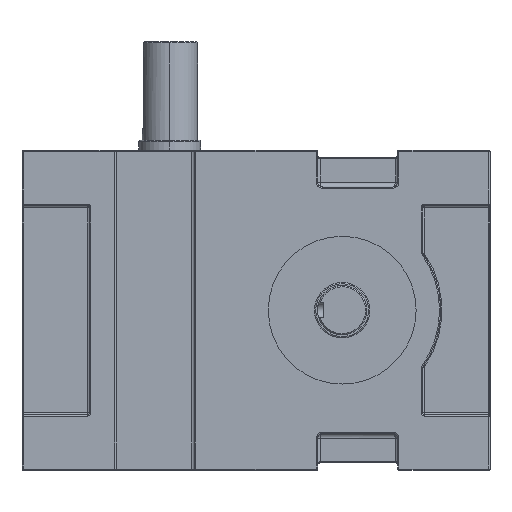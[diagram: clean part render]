
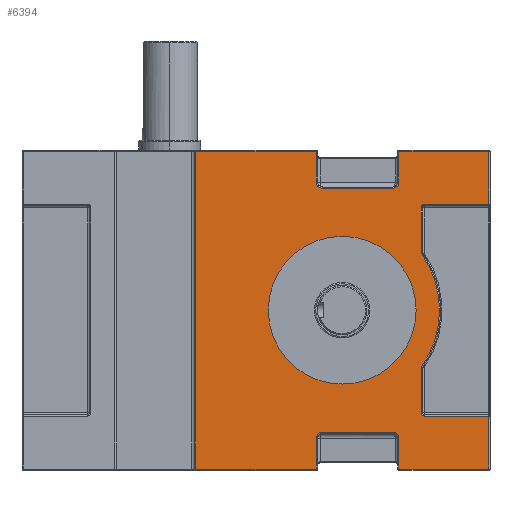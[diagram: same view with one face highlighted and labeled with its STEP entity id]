
A CAD part, left-side view. The second image highlights one B-rep face of the part: STEP entity #6394.
In plain terms, the highlighted planar face has unit normal (-1, 0, 0).
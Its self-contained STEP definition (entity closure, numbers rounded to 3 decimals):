
#890=CARTESIAN_POINT('',(-120.,-70.,-130.));
#891=DIRECTION('',(-1.,0.,0.));
#892=DIRECTION('',(0.,0.,1.));
#893=AXIS2_PLACEMENT_3D('',#890,#891,#892);
#895=CARTESIAN_POINT('',(-120.,-70.,-130.));
#896=DIRECTION('',(-1.,0.,0.));
#897=DIRECTION('',(0.,0.,-1.));
#898=AXIS2_PLACEMENT_3D('',#895,#896,#897);
#900=DIRECTION('',(0.,-1.,0.));
#901=VECTOR('',#900,73.);
#902=CARTESIAN_POINT('',(-120.,-116.,-1.));
#903=LINE('',#902,#901);
#904=DIRECTION('',(0.,0.,-1.));
#905=VECTOR('',#904,43.);
#906=CARTESIAN_POINT('',(-120.,-189.,-1.));
#907=LINE('',#906,#905);
#908=DIRECTION('',(0.,-1.,0.));
#909=VECTOR('',#908,52.);
#910=CARTESIAN_POINT('',(-120.,-137.,-44.));
#911=LINE('',#910,#909);
#912=CARTESIAN_POINT('',(-120.,-137.,-47.));
#913=DIRECTION('',(1.,0.,0.));
#914=DIRECTION('',(0.,1.,0.));
#915=AXIS2_PLACEMENT_3D('',#912,#913,#914);
#917=DIRECTION('',(0.,0.,1.));
#918=VECTOR('',#917,36.043);
#919=CARTESIAN_POINT('',(-120.,-134.,-83.043));
#920=LINE('',#919,#918);
#921=CARTESIAN_POINT('',(-120.,-134.,-83.043));
#922=CARTESIAN_POINT('',(-120.,-134.,-83.133));
#923=CARTESIAN_POINT('',(-120.,-134.012,-83.318));
#924=CARTESIAN_POINT('',(-120.,-134.074,-83.609));
#925=CARTESIAN_POINT('',(-120.,-134.186,-83.906));
#926=CARTESIAN_POINT('',(-120.,-134.303,-84.106));
#927=CARTESIAN_POINT('',(-120.,-134.367,-84.196));
#929=CARTESIAN_POINT('',(-120.,-70.,-130.));
#930=DIRECTION('',(-1.,0.,0.));
#931=DIRECTION('',(0.,-0.815,-0.58));
#932=AXIS2_PLACEMENT_3D('',#929,#930,#931);
#934=CARTESIAN_POINT('',(-120.,-134.371,-175.797));
#935=CARTESIAN_POINT('',(-120.,-134.327,-175.859));
#936=CARTESIAN_POINT('',(-120.,-134.249,-175.982));
#937=CARTESIAN_POINT('',(-120.,-134.147,-176.192));
#938=CARTESIAN_POINT('',(-120.,-134.067,-176.424));
#939=CARTESIAN_POINT('',(-120.,-134.014,-176.678));
#940=CARTESIAN_POINT('',(-120.,-134.,-176.862));
#941=CARTESIAN_POINT('',(-120.,-134.,-176.957));
#943=DIRECTION('',(0.,0.,1.));
#944=VECTOR('',#943,36.043);
#945=CARTESIAN_POINT('',(-120.,-134.,-213.));
#946=LINE('',#945,#944);
#947=CARTESIAN_POINT('',(-120.,-137.,-213.));
#948=DIRECTION('',(1.,0.,0.));
#949=DIRECTION('',(0.,0.,-1.));
#950=AXIS2_PLACEMENT_3D('',#947,#948,#949);
#952=DIRECTION('',(0.,1.,0.));
#953=VECTOR('',#952,52.);
#954=CARTESIAN_POINT('',(-120.,-189.,-216.));
#955=LINE('',#954,#953);
#956=DIRECTION('',(0.,0.,-1.));
#957=VECTOR('',#956,43.);
#958=CARTESIAN_POINT('',(-120.,-189.,-216.));
#959=LINE('',#958,#957);
#960=DIRECTION('',(0.,1.,0.));
#961=VECTOR('',#960,73.);
#962=CARTESIAN_POINT('',(-120.,-189.,-259.));
#963=LINE('',#962,#961);
#964=DIRECTION('',(0.,0.,-1.));
#965=VECTOR('',#964,25.);
#966=CARTESIAN_POINT('',(-120.,-116.,-234.));
#967=LINE('',#966,#965);
#968=CARTESIAN_POINT('',(-120.,-111.,-234.));
#969=DIRECTION('',(1.,0.,0.));
#970=DIRECTION('',(0.,0.,1.));
#971=AXIS2_PLACEMENT_3D('',#968,#969,#970);
#973=DIRECTION('',(0.,-1.,0.));
#974=VECTOR('',#973,57.);
#975=CARTESIAN_POINT('',(-120.,-54.,-229.));
#976=LINE('',#975,#974);
#977=CARTESIAN_POINT('',(-120.,-54.,-234.));
#978=DIRECTION('',(1.,0.,0.));
#979=DIRECTION('',(0.,1.,0.));
#980=AXIS2_PLACEMENT_3D('',#977,#978,#979);
#982=DIRECTION('',(0.,0.,1.));
#983=VECTOR('',#982,25.);
#984=CARTESIAN_POINT('',(-120.,-49.,-259.));
#985=LINE('',#984,#983);
#986=DIRECTION('',(0.,1.,0.));
#987=VECTOR('',#986,98.);
#988=CARTESIAN_POINT('',(-120.,-49.,-259.));
#989=LINE('',#988,#987);
#990=DIRECTION('',(0.,0.,-1.));
#991=VECTOR('',#990,258.);
#992=CARTESIAN_POINT('',(-120.,49.,-1.));
#993=LINE('',#992,#991);
#994=DIRECTION('',(0.,-1.,0.));
#995=VECTOR('',#994,98.);
#996=CARTESIAN_POINT('',(-120.,49.,-1.));
#997=LINE('',#996,#995);
#998=DIRECTION('',(0.,0.,-1.));
#999=VECTOR('',#998,25.);
#1000=CARTESIAN_POINT('',(-120.,-49.,-1.));
#1001=LINE('',#1000,#999);
#1002=CARTESIAN_POINT('',(-120.,-54.,-26.));
#1003=DIRECTION('',(-1.,0.,0.));
#1004=DIRECTION('',(0.,1.,0.));
#1005=AXIS2_PLACEMENT_3D('',#1002,#1003,#1004);
#1007=DIRECTION('',(0.,-1.,0.));
#1008=VECTOR('',#1007,57.);
#1009=CARTESIAN_POINT('',(-120.,-54.,-31.));
#1010=LINE('',#1009,#1008);
#1011=CARTESIAN_POINT('',(-120.,-111.,-26.));
#1012=DIRECTION('',(-1.,0.,0.));
#1013=DIRECTION('',(0.,0.,-1.));
#1014=AXIS2_PLACEMENT_3D('',#1011,#1012,#1013);
#1016=DIRECTION('',(0.,0.,1.));
#1017=VECTOR('',#1016,25.);
#1018=CARTESIAN_POINT('',(-120.,-116.,-26.));
#1019=LINE('',#1018,#1017);
#4505=CARTESIAN_POINT('',(-120.,-70.,-70.));
#4506=CARTESIAN_POINT('',(-120.,-70.,-190.));
#4507=VERTEX_POINT('',#4505);
#4508=VERTEX_POINT('',#4506);
#4753=CARTESIAN_POINT('',(-120.,-116.,-1.));
#4754=CARTESIAN_POINT('',(-120.,-189.,-1.));
#4755=VERTEX_POINT('',#4753);
#4756=VERTEX_POINT('',#4754);
#4785=CARTESIAN_POINT('',(-120.,-189.,-216.));
#4786=CARTESIAN_POINT('',(-120.,-189.,-259.));
#4787=VERTEX_POINT('',#4785);
#4788=VERTEX_POINT('',#4786);
#4813=CARTESIAN_POINT('',(-120.,-134.,-213.));
#4814=CARTESIAN_POINT('',(-120.,-134.,-176.957));
#4815=VERTEX_POINT('',#4813);
#4816=VERTEX_POINT('',#4814);
#4817=CARTESIAN_POINT('',(-120.,-137.,-216.));
#4818=VERTEX_POINT('',#4817);
#4821=CARTESIAN_POINT('',(-120.,-134.375,-175.792));
#4822=CARTESIAN_POINT('',(-120.,-134.36,-84.187));
#4823=VERTEX_POINT('',#4821);
#4824=VERTEX_POINT('',#4822);
#4825=CARTESIAN_POINT('',(-120.,-134.,-83.043));
#4826=CARTESIAN_POINT('',(-120.,-134.,-47.));
#4827=VERTEX_POINT('',#4825);
#4828=VERTEX_POINT('',#4826);
#4831=CARTESIAN_POINT('',(-120.,-137.,-44.));
#4832=VERTEX_POINT('',#4831);
#4835=CARTESIAN_POINT('',(-120.,-189.,-44.));
#4836=VERTEX_POINT('',#4835);
#4891=CARTESIAN_POINT('',(-120.,-116.,-259.));
#4892=VERTEX_POINT('',#4891);
#4893=CARTESIAN_POINT('',(-120.,-49.,-259.));
#4894=CARTESIAN_POINT('',(-120.,49.,-259.));
#4895=VERTEX_POINT('',#4893);
#4896=VERTEX_POINT('',#4894);
#4967=CARTESIAN_POINT('',(-120.,-49.,-234.));
#4968=VERTEX_POINT('',#4967);
#4971=CARTESIAN_POINT('',(-120.,-54.,-229.));
#4972=VERTEX_POINT('',#4971);
#4975=CARTESIAN_POINT('',(-120.,-111.,-229.));
#4976=VERTEX_POINT('',#4975);
#4979=CARTESIAN_POINT('',(-120.,-116.,-234.));
#4980=VERTEX_POINT('',#4979);
#5125=CARTESIAN_POINT('',(-120.,-116.,-26.));
#5126=VERTEX_POINT('',#5125);
#5131=CARTESIAN_POINT('',(-120.,-111.,-31.));
#5132=VERTEX_POINT('',#5131);
#5135=CARTESIAN_POINT('',(-120.,-54.,-31.));
#5136=VERTEX_POINT('',#5135);
#5139=CARTESIAN_POINT('',(-120.,-49.,-26.));
#5140=VERTEX_POINT('',#5139);
#5141=CARTESIAN_POINT('',(-120.,-49.,-1.));
#5142=VERTEX_POINT('',#5141);
#5143=CARTESIAN_POINT('',(-120.,49.,-1.));
#5144=VERTEX_POINT('',#5143);
#6330=CARTESIAN_POINT('',(-120.,190.,0.));
#6331=DIRECTION('',(-1.,0.,0.));
#6332=DIRECTION('',(0.,-1.,0.));
#6333=AXIS2_PLACEMENT_3D('',#6330,#6331,#6332);
#6334=PLANE('',#6333);
#6336=ORIENTED_EDGE('',*,*,#6335,.T.);
#6338=ORIENTED_EDGE('',*,*,#6337,.T.);
#6340=ORIENTED_EDGE('',*,*,#6339,.F.);
#6342=ORIENTED_EDGE('',*,*,#6341,.F.);
#6344=ORIENTED_EDGE('',*,*,#6343,.F.);
#6346=ORIENTED_EDGE('',*,*,#6345,.T.);
#6348=ORIENTED_EDGE('',*,*,#6347,.F.);
#6350=ORIENTED_EDGE('',*,*,#6349,.T.);
#6352=ORIENTED_EDGE('',*,*,#6351,.F.);
#6354=ORIENTED_EDGE('',*,*,#6353,.F.);
#6356=ORIENTED_EDGE('',*,*,#6355,.F.);
#6358=ORIENTED_EDGE('',*,*,#6357,.T.);
#6360=ORIENTED_EDGE('',*,*,#6359,.T.);
#6362=ORIENTED_EDGE('',*,*,#6361,.F.);
#6364=ORIENTED_EDGE('',*,*,#6363,.F.);
#6366=ORIENTED_EDGE('',*,*,#6365,.F.);
#6368=ORIENTED_EDGE('',*,*,#6367,.F.);
#6370=ORIENTED_EDGE('',*,*,#6369,.F.);
#6372=ORIENTED_EDGE('',*,*,#6371,.T.);
#6374=ORIENTED_EDGE('',*,*,#6373,.F.);
#6376=ORIENTED_EDGE('',*,*,#6375,.T.);
#6378=ORIENTED_EDGE('',*,*,#6377,.T.);
#6380=ORIENTED_EDGE('',*,*,#6379,.T.);
#6382=ORIENTED_EDGE('',*,*,#6381,.T.);
#6384=ORIENTED_EDGE('',*,*,#6383,.T.);
#6386=ORIENTED_EDGE('',*,*,#6385,.T.);
#6387=EDGE_LOOP('',(#6336,#6338,#6340,#6342,#6344,#6346,#6348,#6350,#6352,#6354,
#6356,#6358,#6360,#6362,#6364,#6366,#6368,#6370,#6372,#6374,#6376,#6378,#6380,
#6382,#6384,#6386));
#6388=FACE_OUTER_BOUND('',#6387,.F.);
#6389=ORIENTED_EDGE('',*,*,#6320,.T.);
#6391=ORIENTED_EDGE('',*,*,#6390,.T.);
#6392=EDGE_LOOP('',(#6389,#6391));
#6393=FACE_BOUND('',#6392,.F.);
#894=CIRCLE('',#893,60.);
#899=CIRCLE('',#898,60.);
#916=CIRCLE('',#915,3.);
#928=B_SPLINE_CURVE_WITH_KNOTS('',3,(#921,#922,#923,#924,#925,#926,#927),
.UNSPECIFIED.,.F.,.F.,(4,1,1,1,4),(0.,0.25,0.5,0.75,1.),
.UNSPECIFIED.);
#933=CIRCLE('',#932,79.);
#942=B_SPLINE_CURVE_WITH_KNOTS('',3,(#934,#935,#936,#937,#938,#939,#940,#941),
.UNSPECIFIED.,.F.,.F.,(4,1,1,1,1,4),(0.,0.2,0.4,0.6,0.8,1.),
.UNSPECIFIED.);
#951=CIRCLE('',#950,3.);
#972=CIRCLE('',#971,5.);
#981=CIRCLE('',#980,5.);
#1006=CIRCLE('',#1005,5.);
#1015=CIRCLE('',#1014,5.);
#6320=EDGE_CURVE('',#4507,#4508,#894,.T.);
#6335=EDGE_CURVE('',#4755,#4756,#903,.T.);
#6337=EDGE_CURVE('',#4756,#4836,#907,.T.);
#6339=EDGE_CURVE('',#4832,#4836,#911,.T.);
#6341=EDGE_CURVE('',#4828,#4832,#916,.T.);
#6343=EDGE_CURVE('',#4827,#4828,#920,.T.);
#6345=EDGE_CURVE('',#4827,#4824,#928,.T.);
#6347=EDGE_CURVE('',#4823,#4824,#933,.T.);
#6349=EDGE_CURVE('',#4823,#4816,#942,.T.);
#6351=EDGE_CURVE('',#4815,#4816,#946,.T.);
#6353=EDGE_CURVE('',#4818,#4815,#951,.T.);
#6355=EDGE_CURVE('',#4787,#4818,#955,.T.);
#6357=EDGE_CURVE('',#4787,#4788,#959,.T.);
#6359=EDGE_CURVE('',#4788,#4892,#963,.T.);
#6361=EDGE_CURVE('',#4980,#4892,#967,.T.);
#6363=EDGE_CURVE('',#4976,#4980,#972,.T.);
#6365=EDGE_CURVE('',#4972,#4976,#976,.T.);
#6367=EDGE_CURVE('',#4968,#4972,#981,.T.);
#6369=EDGE_CURVE('',#4895,#4968,#985,.T.);
#6371=EDGE_CURVE('',#4895,#4896,#989,.T.);
#6373=EDGE_CURVE('',#5144,#4896,#993,.T.);
#6375=EDGE_CURVE('',#5144,#5142,#997,.T.);
#6377=EDGE_CURVE('',#5142,#5140,#1001,.T.);
#6379=EDGE_CURVE('',#5140,#5136,#1006,.T.);
#6381=EDGE_CURVE('',#5136,#5132,#1010,.T.);
#6383=EDGE_CURVE('',#5132,#5126,#1015,.T.);
#6385=EDGE_CURVE('',#5126,#4755,#1019,.T.);
#6390=EDGE_CURVE('',#4508,#4507,#899,.T.);
#6394=ADVANCED_FACE('',(#6388,#6393),#6334,.T.);
